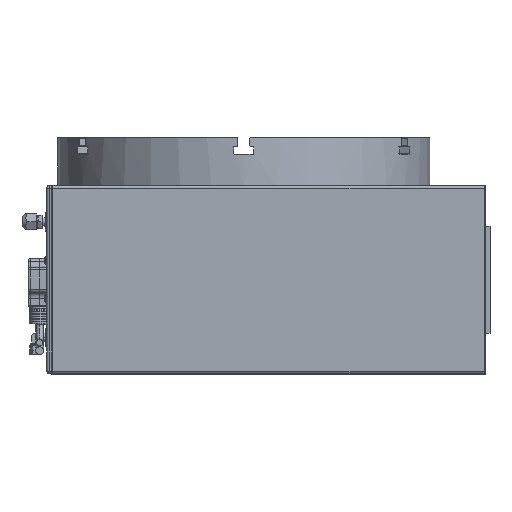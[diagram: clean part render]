
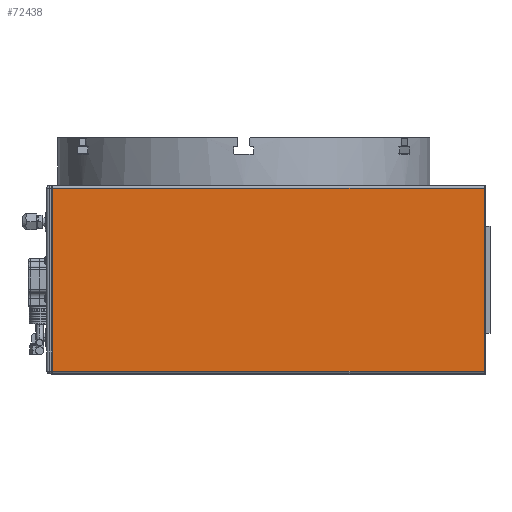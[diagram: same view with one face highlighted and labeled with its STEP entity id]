
A CAD part, left-side view. The second image highlights one B-rep face of the part: STEP entity #72438.
In plain terms, the highlighted planar face has unit normal (-1, 0, 0).
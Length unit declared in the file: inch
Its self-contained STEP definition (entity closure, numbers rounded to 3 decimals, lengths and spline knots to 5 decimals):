
#4382 = VECTOR ( 'NONE', #64976, 39.37008 ) ;
#7010 = CARTESIAN_POINT ( 'NONE',  ( -9.375, -11.45, -4.475 ) ) ;
#9114 = ORIENTED_EDGE ( 'NONE', *, *, #90124, .T. ) ;
#9120 = CARTESIAN_POINT ( 'NONE',  ( -9.375, 9.1, 4.355 ) ) ;
#10375 = EDGE_CURVE ( 'NONE', #81746, #65647, #57238, .T. ) ;
#13819 = AXIS2_PLACEMENT_3D ( 'NONE', #62222, #102176, #47670 ) ;
#17836 = VERTEX_POINT ( 'NONE', #77011 ) ;
#19977 = CARTESIAN_POINT ( 'NONE',  ( -9.375, 9.1, -4.355 ) ) ;
#21077 = CARTESIAN_POINT ( 'NONE',  ( -9.375, 9.1, 4.355 ) ) ;
#22671 = EDGE_CURVE ( 'NONE', #17836, #76940, #90182, .T. ) ;
#23306 = EDGE_LOOP ( 'NONE', ( #9114, #47319, #50143, #46733 ) ) ;
#23804 = VECTOR ( 'NONE', #56381, 39.37008 ) ;
#33287 = LINE ( 'NONE', #86306, #4382 ) ;
#34564 = VECTOR ( 'NONE', #93269, 39.37008 ) ;
#46733 = ORIENTED_EDGE ( 'NONE', *, *, #22671, .T. ) ;
#47319 = ORIENTED_EDGE ( 'NONE', *, *, #10375, .T. ) ;
#47670 = DIRECTION ( 'NONE',  ( 0., 0., 1. ) ) ;
#50143 = ORIENTED_EDGE ( 'NONE', *, *, #100637, .T. ) ;
#56381 = DIRECTION ( 'NONE',  ( 0., 1., 0. ) ) ;
#57238 = LINE ( 'NONE', #65102, #94454 ) ;
#58289 = DIRECTION ( 'NONE',  ( 0., -1., 0. ) ) ;
#62222 = CARTESIAN_POINT ( 'NONE',  ( -9.375, 9.1, -4.475 ) ) ;
#63770 = FACE_OUTER_BOUND ( 'NONE', #23306, .T. ) ;
#64976 = DIRECTION ( 'NONE',  ( 0., 0., -1. ) ) ;
#65102 = CARTESIAN_POINT ( 'NONE',  ( -9.375, 9.1, -4.355 ) ) ;
#65647 = VERTEX_POINT ( 'NONE', #102373 ) ;
#72438 = ADVANCED_FACE ( 'NONE', ( #63770 ), #102699, .T. ) ;
#76940 = VERTEX_POINT ( 'NONE', #21077 ) ;
#77011 = CARTESIAN_POINT ( 'NONE',  ( -9.375, -11.45, 4.355 ) ) ;
#78679 = LINE ( 'NONE', #7010, #34564 ) ;
#81746 = VERTEX_POINT ( 'NONE', #19977 ) ;
#86306 = CARTESIAN_POINT ( 'NONE',  ( -9.375, 9.1, 4.475 ) ) ;
#90124 = EDGE_CURVE ( 'NONE', #76940, #81746, #33287, .T. ) ;
#90182 = LINE ( 'NONE', #9120, #23804 ) ;
#93269 = DIRECTION ( 'NONE',  ( 0., 0., 1. ) ) ;
#94454 = VECTOR ( 'NONE', #58289, 39.37008 ) ;
#100637 = EDGE_CURVE ( 'NONE', #65647, #17836, #78679, .T. ) ;
#102176 = DIRECTION ( 'NONE',  ( -1., 0., 0. ) ) ;
#102373 = CARTESIAN_POINT ( 'NONE',  ( -9.375, -11.45, -4.355 ) ) ;
#102699 = PLANE ( 'NONE',  #13819 ) ;
